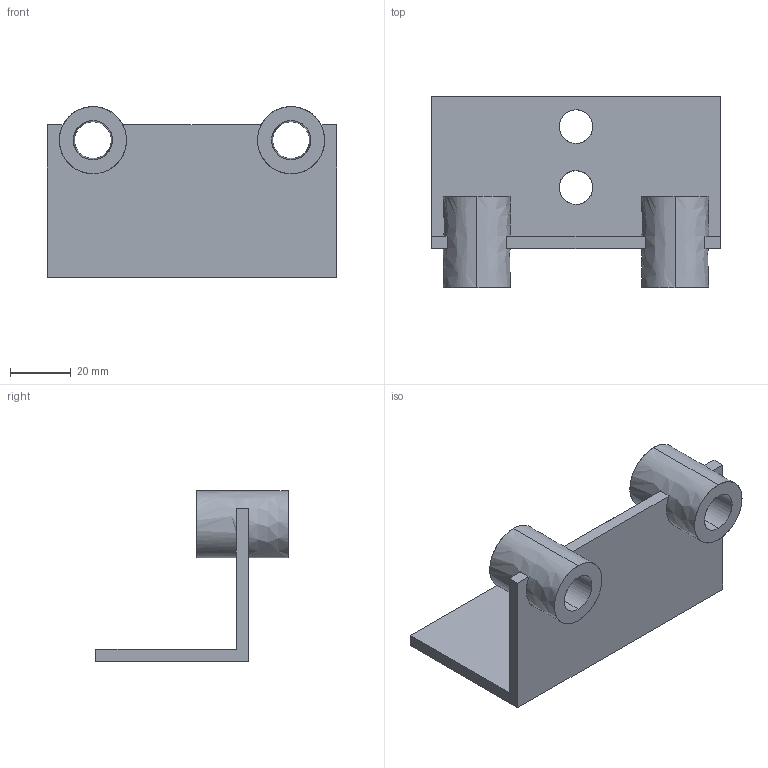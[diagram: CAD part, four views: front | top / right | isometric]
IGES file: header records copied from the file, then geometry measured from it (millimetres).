
Global section: file name: E:\UnigraphicsGraphicData\MISUMI_PRESS-PARTS\IGES\3d_dahk-d_03683_r00.igs; native system: NX V5.0; preprocessor: UGS NX IGES V5.0; author: MISUMI; date: 20110105.160523; units: millimetre
Bounding box: 95 x 63 x 56 mm (x, y, z)
Surface area: 25440.8 mm2 (no closed solid volume)
Topology: 0 solids, 0 shells, 34 faces, 276 edges, 276 vertices
Faces by surface type: bspline 34
